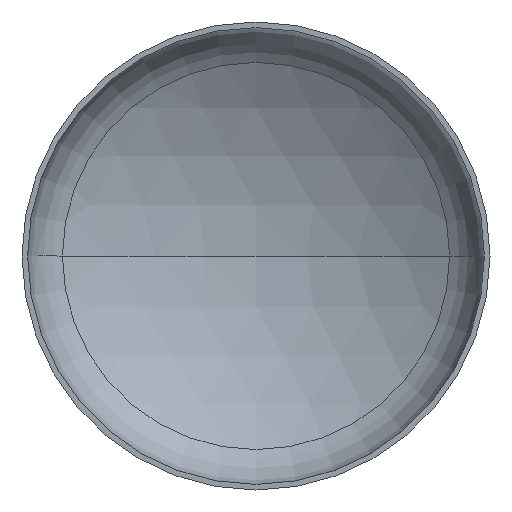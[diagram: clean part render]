
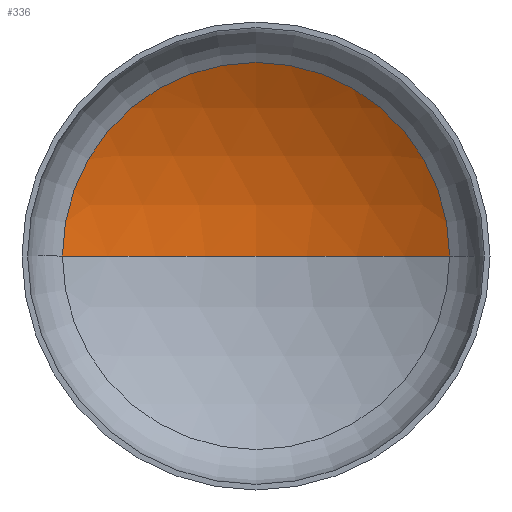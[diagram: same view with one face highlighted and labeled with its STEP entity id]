
A CAD part, front view. The second image highlights one B-rep face of the part: STEP entity #336.
In plain terms, the highlighted spherical face has radius 6000 mm.
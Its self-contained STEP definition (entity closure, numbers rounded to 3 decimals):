
#14 = AXIS2_PLACEMENT_3D ( 'NONE', #166, #154, #388 ) ;
#17 = VERTEX_POINT ( 'NONE', #294 ) ;
#25 = ORIENTED_EDGE ( 'NONE', *, *, #137, .F. ) ;
#37 = VERTEX_POINT ( 'NONE', #256 ) ;
#67 = CARTESIAN_POINT ( 'NONE',  ( -3102.167, 1088.644, 0. ) ) ;
#72 = FACE_OUTER_BOUND ( 'NONE', #96, .T. ) ;
#94 = AXIS2_PLACEMENT_3D ( 'NONE', #230, #221, #218 ) ;
#96 = EDGE_LOOP ( 'NONE', ( #25, #116, #114 ) ) ;
#100 = AXIS2_PLACEMENT_3D ( 'NONE', #304, #302, #301 ) ;
#102 = AXIS2_PLACEMENT_3D ( 'NONE', #297, #295, #185 ) ;
#114 = ORIENTED_EDGE ( 'NONE', *, *, #135, .T. ) ;
#116 = ORIENTED_EDGE ( 'NONE', *, *, #136, .T. ) ;
#133 = CIRCLE ( 'NONE', #94, 6000. ) ;
#135 = EDGE_CURVE ( 'NONE', #17, #228, #335, .T. ) ;
#136 = EDGE_CURVE ( 'NONE', #37, #17, #275, .T. ) ;
#137 = EDGE_CURVE ( 'NONE', #37, #228, #133, .T. ) ;
#154 = DIRECTION ( 'NONE',  ( 0., 0., -1. ) ) ;
#166 = CARTESIAN_POINT ( 'NONE',  ( 0., -4047.168, 0. ) ) ;
#185 = DIRECTION ( 'NONE',  ( 1., 0., 0. ) ) ;
#218 = DIRECTION ( 'NONE',  ( 1., 0., 0. ) ) ;
#221 = DIRECTION ( 'NONE',  ( 0., 0., 1. ) ) ;
#228 = VERTEX_POINT ( 'NONE', #67 ) ;
#230 = CARTESIAN_POINT ( 'NONE',  ( 0., -4047.168, 0. ) ) ;
#256 = CARTESIAN_POINT ( 'NONE',  ( 0., 1952.832, 0. ) ) ;
#275 = CIRCLE ( 'NONE', #100, 6000. ) ;
#294 = CARTESIAN_POINT ( 'NONE',  ( 3102.167, 1088.644, 0. ) ) ;
#295 = DIRECTION ( 'NONE',  ( 0., -1., 0. ) ) ;
#297 = CARTESIAN_POINT ( 'NONE',  ( 0., 1088.644, 0. ) ) ;
#301 = DIRECTION ( 'NONE',  ( -1., 0., 0. ) ) ;
#302 = DIRECTION ( 'NONE',  ( 0., 0., -1. ) ) ;
#304 = CARTESIAN_POINT ( 'NONE',  ( 0., -4047.168, 0. ) ) ;
#335 = CIRCLE ( 'NONE', #102, 3102.167 ) ;
#336 = ADVANCED_FACE ( 'NONE', ( #72 ), #358, .F. ) ;
#358 = SPHERICAL_SURFACE ( 'NONE', #14, 6000. ) ;
#388 = DIRECTION ( 'NONE',  ( -1., 0., 0. ) ) ;
